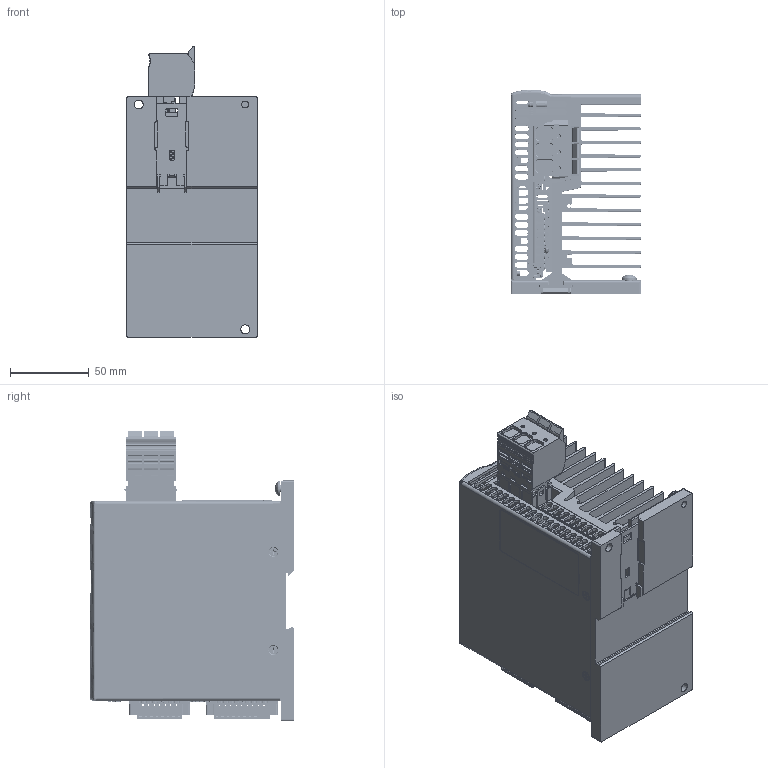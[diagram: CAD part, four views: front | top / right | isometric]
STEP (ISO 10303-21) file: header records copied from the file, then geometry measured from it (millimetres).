
FILE_DESCRIPTION(/* description */ (''),/* implementation_level */ '2;1');
FILE_NAME(/* name */ 'MicroFUSION 1-phase 50A.stp',/* time_stamp */ '2025-05-21T12:20:11-05:00',/* author */ ('PRD'),/* organization */ ('Control Concepts, Inc'),/* preprocessor_version */ 'ST-DEVELOPER v20',/* originating_system */ 'Autodesk Inventor 2025',/* authorisation */ '');
FILE_SCHEMA (('AUTOMOTIVE_DESIGN { 1 0 10303 214 3 1 1 }'));
Products named in the file (32): 3001435; 3001264; 3001253; 0060705-0030-0006; ANSI B18.6.7M - M3x0.5 x 6; 62111-0004-0; 3001262; lightpipe rd1; lightpipe2; lightpipe3; lightpipe4; lightpipe5; lightpipe6; lightpipe structure; 0060000-0228-0250; 3001265; 1001390H; FCI 10 PIN HEADER 20020111-c10; FCI 8 PIN HEADER 20020111-c08; 0057213-0400-03; 8057720-1002-02; P3cci1; FCI 10118075; 3001252; 0068101-0125-1100; 0060730-1032-0250; 0053030-0138-10-S; 0071000-0000-25_bent; 0053030-0138-08-S; 0071000-0000-22; 0060063-0030-0006; 0053109-0400-03
Assembly tree (36 placements, depth 4):
  3001435
    3001264
    3001253
    0060705-0030-0006
      ANSI B18.6.7M - M3x0.5 x 6
      62111-0004-0
    3001262
      lightpipe rd1
      lightpipe2
      lightpipe3
      lightpipe4
      lightpipe5
      lightpipe6  x4
      lightpipe structure
    0060000-0228-0250
    3001265
    1001390H
      FCI 10 PIN HEADER 20020111-c10
      FCI 8 PIN HEADER 20020111-c08
      0057213-0400-03
      8057720-1002-02
      P3cci1
        FCI 10118075
    3001252
    0068101-0125-1100
    0060730-1032-0250
    0053030-0138-10-S
    0071000-0000-25_bent
    0053030-0138-08-S
    0071000-0000-22
    0060063-0030-0006  x3
    0053109-0400-03
Bounding box: 82.55 x 129.24 x 183.89 mm (x, y, z)
Volume: 475293.9 mm3; surface area: 342415.8 mm2
Topology: 81 solids, 84 shells, 7726 faces, 21125 edges, 13879 vertices
Faces by surface type: plane 5441, cylinder 1608, cone 296, bspline 262, torus 116, sphere 3
Full cylindrical faces by diameter (mm): 0.108 x1, 1.402 x7, 1.8 x4, 2 x32, 2.2 x6, 2.459 x6, 2.464 x5, 2.5 x12, 2.6 x4, 2.95 x18, 3 x7, 3.242 x1, 3.277 x4, 3.607 x4, 3.9 x4, 4.242 x1, 4.369 x1, 4.826 x1, 5.5 x3, 5.6 x1, 5.613 x2, 6.858 x1, 9.474 x1
Entity records: 287660 total; most frequent: CARTESIAN_POINT 89366, ORIENTED_EDGE 41840, DIRECTION 38460, EDGE_CURVE 20920, LINE 15624, VECTOR 15624, VERTEX_POINT 13761, AXIS2_PLACEMENT_3D 11418
